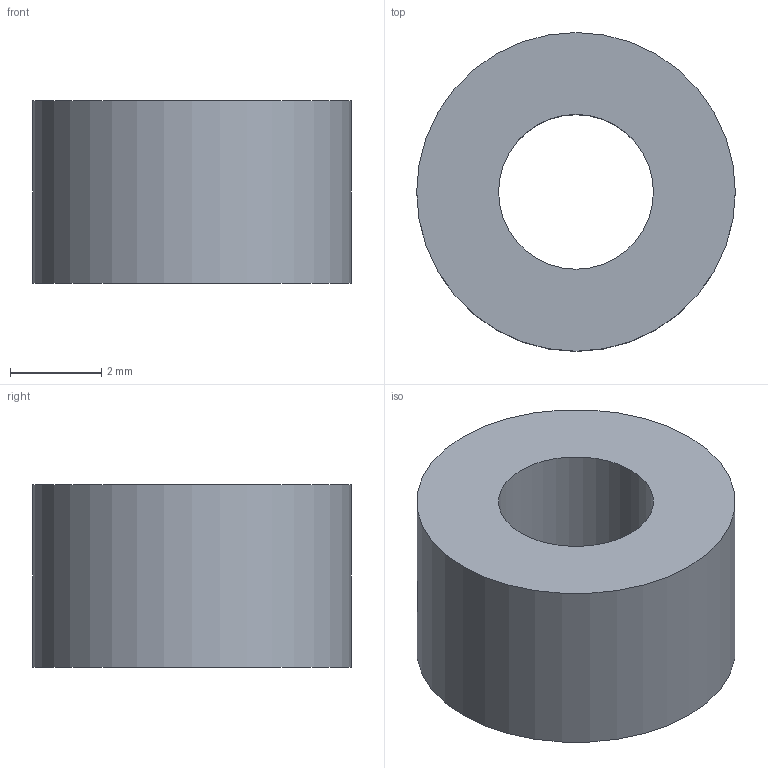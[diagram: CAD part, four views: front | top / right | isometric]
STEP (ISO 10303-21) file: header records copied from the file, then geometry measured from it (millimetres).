
FILE_DESCRIPTION(('Open CASCADE Model'),'2;1');
FILE_NAME('Open CASCADE Shape Model','2026-11-06T11:30:49',('Author'),( 'Open CASCADE'),'Open CASCADE STEP processor 7.8','Open CASCADE 7.8' ,'Unknown');
FILE_SCHEMA(('AUTOMOTIVE_DESIGN { 1 0 10303 214 1 1 1 1 }'));
Length unit declared in the file: millimetre
Products named in the file (1): Open CASCADE STEP translator 7.8 6
Bounding box: 7 x 7 x 4 mm (x, y, z)
Volume: 117.6 mm3; surface area: 189.5 mm2
Topology: 1 solids, 1 shells, 4 faces, 6 edges, 4 vertices
Faces by surface type: cylinder 2, plane 2
Full cylindrical faces by diameter (mm): 3.4 x1, 7 x1
Entity records: 186 total; most frequent: DIRECTION 32, CARTESIAN_POINT 27, ORIENTED_EDGE 12, PCURVE 12, DEFINITIONAL_REPRESENTATION 12, LINE 10, VECTOR 10, AXIS2_PLACEMENT_3D 9
